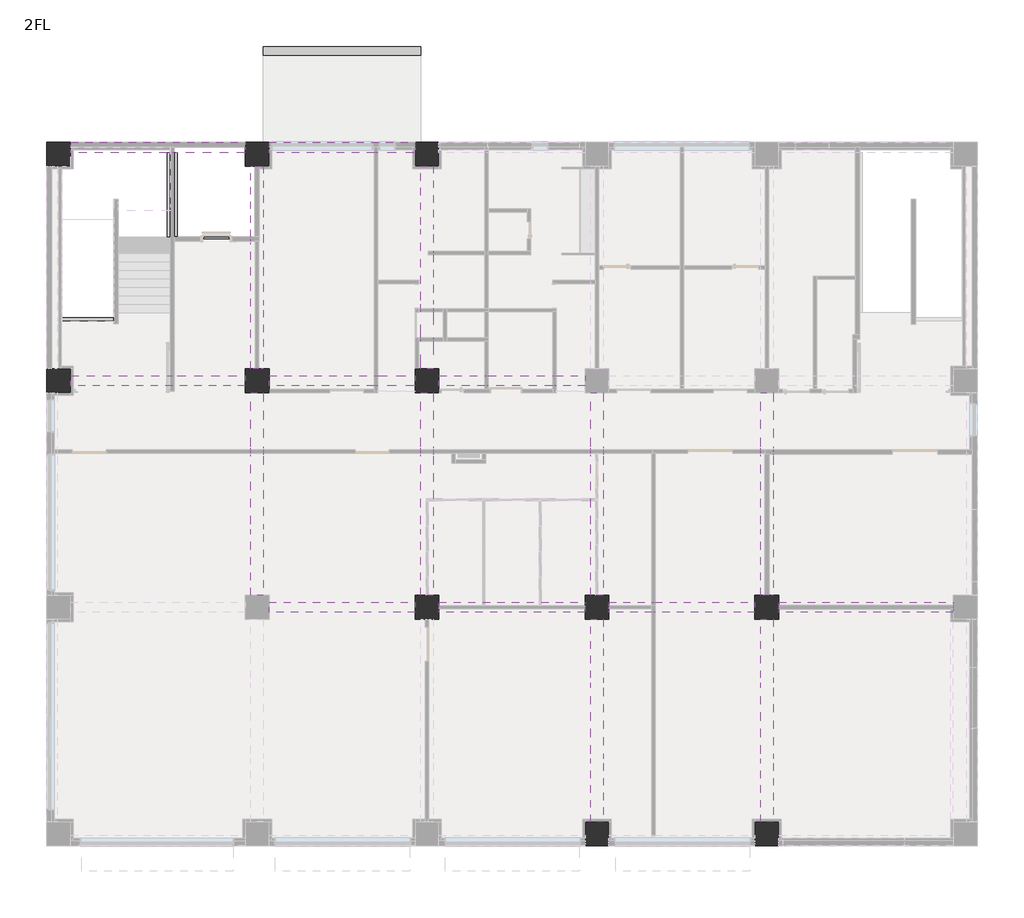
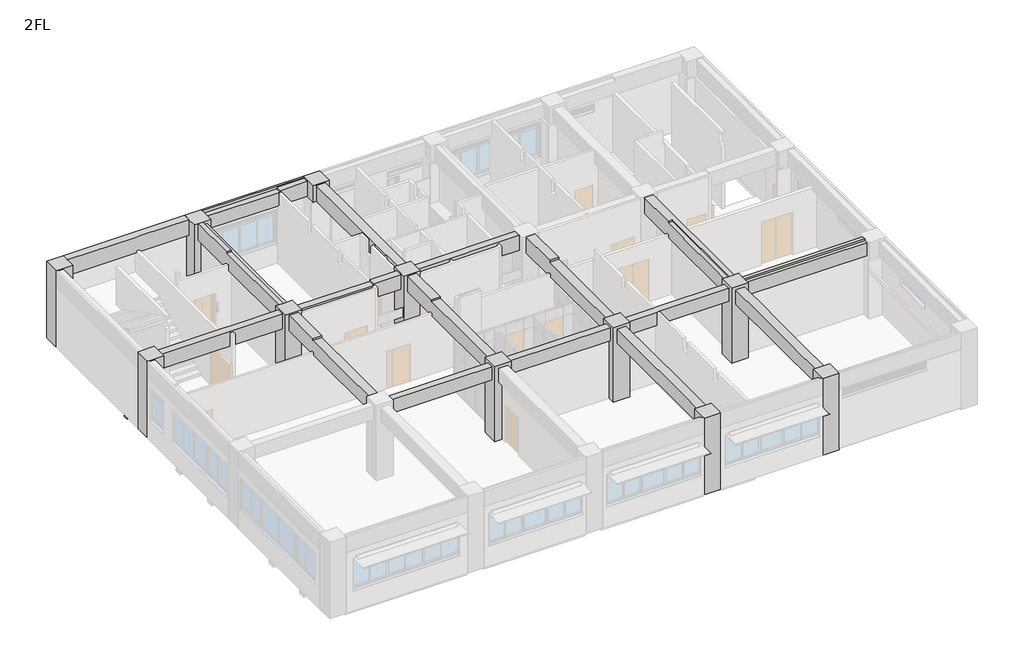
# One storey, part 6 of 7: 37 beams, 11 columns.
"""IFC4 building model written with IfcOpenShell, lengths in millimetres."""

import ifcopenshell
import ifcopenshell.guid

model = None  # the IFC model being written
_history = None  # IfcOwnerHistory: only IFC2X3 demands one
_inside = {}  # id of a spatial element -> (the spatial element, [elements in it])
_under = {}  # id of a project, library or spatial element -> (it, [spatial elements below it])
_declared = {}  # id of a project -> (the project, [libraries it declares])
_typed = {}  # id of a type object -> (the type object, [elements of that type])
_made_of = {}  # id of a material, layer set ... -> (it, [elements and type objects made of it])


def new_model(schema):
    """Start an empty IFC model of exactly this schema.

    Asked for "IFC4X3", IfcOpenShell would pick the latest addendum, in which some entities
    have other attributes; the version numbers below select the first issue.
    IFC2X3 requires an IfcOwnerHistory on every rooted entity: one is made here for all.
    """
    global model, _history
    if schema == "IFC4X3":
        model = ifcopenshell.file(schema_version=(4, 3, 0, 0))
    else:
        model = ifcopenshell.file(schema=schema)
    _inside.clear()
    _under.clear()
    _declared.clear()
    _typed.clear()
    _made_of.clear()
    _history = None
    if model.schema == "IFC2X3":
        org = make("IfcOrganization", Name="unknown")
        user = make(
            "IfcPersonAndOrganization",
            ThePerson=make("IfcPerson", FamilyName="unknown"),
            TheOrganization=org,
        )
        app = make(
            "IfcApplication",
            ApplicationDeveloper=org,
            Version="unknown",
            ApplicationFullName="unknown",
            ApplicationIdentifier="unknown",
        )
        _history = make(
            "IfcOwnerHistory",
            OwningUser=user,
            OwningApplication=app,
            ChangeAction="ADDED",
            CreationDate=0,
        )
    return model


def make(cls, **values):
    """One entity of the class cls with the attributes given. An attribute that is None is left unset."""
    return model.create_entity(
        cls, **{name: value for name, value in values.items() if value is not None}
    )


def rooted(cls, **values):
    """An entity with a GlobalId (a new one), such as an element, a storey or a relation."""
    return make(cls, GlobalId=ifcopenshell.guid.new(), OwnerHistory=_history, **values)


def si_unit(unit_type, name, prefix=None):
    """IfcSIUnit, for example si_unit("LENGTHUNIT", "METRE", prefix="MILLI")."""
    return make("IfcSIUnit", UnitType=unit_type, Prefix=prefix, Name=name)


def assignment(units):
    """IfcUnitAssignment: the units of a project."""
    return None if units is None else make("IfcUnitAssignment", Units=units)


def point(xyz):
    """IfcCartesianPoint."""
    return None if xyz is None else make("IfcCartesianPoint", Coordinates=xyz)


def direction(xyz):
    """IfcDirection."""
    return None if xyz is None else make("IfcDirection", DirectionRatios=xyz)


def frame(location, z_axis=None, x_axis=None):
    """IfcAxis2Placement3D, a coordinate frame: its origin and axes. An axis left out is left unset."""
    return make(
        "IfcAxis2Placement3D",
        Location=point(location),
        Axis=direction(z_axis),
        RefDirection=direction(x_axis),
    )


def origin():
    """The frame at (0, 0, 0) with its axes left unset."""
    return frame((0.0, 0.0, 0.0))


def place(relative_to, where):
    """IfcLocalPlacement: puts the frame where relative to a parent placement (None: the world)."""
    return make(
        "IfcLocalPlacement", PlacementRelTo=relative_to, RelativePlacement=where
    )


def context(
    kind, dimensions, precision=None, world=None, true_north=None, identifier=None
):
    """IfcGeometricRepresentationContext, for example the 3D "Model" context."""
    return make(
        "IfcGeometricRepresentationContext",
        ContextIdentifier=identifier,
        ContextType=kind,
        CoordinateSpaceDimension=dimensions,
        Precision=precision,
        WorldCoordinateSystem=world,
        TrueNorth=true_north,
    )


def project(units=None, contexts=None):
    """IfcProject with its units and contexts."""
    return rooted(
        "IfcProject",
        Name="project",
        RepresentationContexts=contexts,
        UnitsInContext=assignment(units),
    )


def spatial(cls, under=None, at=None, **own):
    """A site, building, storey or space (cls), placed at a placement, below another one or the project."""
    s = rooted(cls, ObjectPlacement=at, **own)
    if under is not None:
        _under.setdefault(under.id(), (under, []))[1].append(s)
    return s


def polyline(points):
    """IfcPolyline through the points."""
    return make("IfcPolyline", Points=[point(p) for p in points])


def outline(outer, holes=None, kind="AREA"):
    """IfcArbitraryClosedProfileDef: a profile drawn as a closed curve; with holes, ...WithVoids."""
    if holes is None:
        return make("IfcArbitraryClosedProfileDef", ProfileType=kind, OuterCurve=outer)
    return make(
        "IfcArbitraryProfileDefWithVoids",
        ProfileType=kind,
        OuterCurve=outer,
        InnerCurves=holes,
    )


def extrude(swept, where, along, depth):
    """IfcExtrudedAreaSolid: the profile swept, set in the frame where, extruded along a direction by depth."""
    return make(
        "IfcExtrudedAreaSolid",
        SweptArea=swept,
        Position=where,
        ExtrudedDirection=direction(along),
        Depth=depth,
    )


def faces_of(points, faces, orient=None, outer=None):
    """IfcFace entities. A face is a list of loops; a loop is a list of indices into points, from 0.

    orient and outer hold one flag for each loop. By default every Orientation is true, the
    first loop of a face is its IfcFaceOuterBound and the others are IfcFaceBound.
    """
    made = []
    for i, loops in enumerate(faces):
        bounds = []
        for j, loop in enumerate(loops):
            is_outer = j == 0 if outer is None else outer[i][j]
            bounds.append(
                make(
                    "IfcFaceOuterBound" if is_outer else "IfcFaceBound",
                    Bound=make("IfcPolyLoop", Polygon=[points[k] for k in loop]),
                    Orientation=True if orient is None else orient[i][j],
                )
            )
        made.append(make("IfcFace", Bounds=bounds))
    return made


def faceted_brep(points, faces, orient=None, outer=None, voids=None):
    """IfcFacetedBrep: a solid bounded by flat faces; with voids (closed shells), ...WithVoids."""
    shared = [point(p) for p in points]
    hull = make("IfcClosedShell", CfsFaces=faces_of(shared, faces, orient, outer))
    if voids is None:
        return make("IfcFacetedBrep", Outer=hull)
    return make(
        "IfcFacetedBrepWithVoids",
        Outer=hull,
        Voids=[
            make(cls, CfsFaces=faces_of(shared, fs, o, b)) for cls, fs, o, b in voids
        ],
    )


def shape(context_of_items, identifier, shape_type, items):
    """IfcShapeRepresentation: the items that make up one representation, for example the "Body"."""
    return make(
        "IfcShapeRepresentation",
        ContextOfItems=context_of_items,
        RepresentationIdentifier=identifier,
        RepresentationType=shape_type,
        Items=items,
    )


def made_of(thing, what):
    """Note that an element or type object is made of a material, layer set ...; save() writes the relation."""
    if what is not None:
        _made_of.setdefault(what.id(), (what, []))[1].append(thing)
    return thing


def element(
    cls,
    number,
    at=None,
    inside=None,
    cuts=None,
    type_object=None,
    material=None,
    context=None,
    identifier="Body",
    shape_type=None,
    held_by="IfcProductDefinitionShape",
    body=None,
    shapes=None,
    **own,
):
    """One element of the class cls, such as IfcWall. Its Tag is "e" and its number.

    at: its placement. inside: the storey or other place that contains it. cuts: it is an
    opening in that element (IfcRelVoidsElement). A single representation is given by context,
    identifier, shape_type and body (its items); several are given by shapes. held_by: the class
    of the entity that holds the representations. save() writes the other relations.
    """
    e = rooted(cls, Tag="e%d" % number, ObjectPlacement=at, **own)
    if body is not None:
        shapes = [shape(context, identifier, shape_type, body)]
    if shapes is not None:
        e.Representation = make(held_by, Representations=shapes)
    if inside is not None:
        _inside.setdefault(inside.id(), (inside, []))[1].append(e)
    if cuts is not None:
        rooted(
            "IfcRelVoidsElement", RelatingBuildingElement=cuts, RelatedOpeningElement=e
        )
    if type_object is not None:
        _typed.setdefault(type_object.id(), (type_object, []))[1].append(e)
    return made_of(e, material)


def aggregate(whole, parts):
    """IfcRelAggregates: a whole, such as a stair, and the parts it consists of."""
    return rooted("IfcRelAggregates", RelatingObject=whole, RelatedObjects=parts)


def save(model, path):
    """Write the relations noted so far, then the file.

    IfcRelAggregates (storeys below a building ...), IfcRelContainedInSpatialStructure (elements
    in a storey), IfcRelDefinesByType, IfcRelAssociatesMaterial and IfcRelDeclares: one each for
    every whole, place, type object, material and project.
    """
    for whole, parts in _under.values():
        aggregate(whole, parts)
    for where, things in _inside.values():
        rooted(
            "IfcRelContainedInSpatialStructure",
            RelatedElements=things,
            RelatingStructure=where,
        )
    for kind, things in _typed.values():
        rooted("IfcRelDefinesByType", RelatedObjects=things, RelatingType=kind)
    for what, things in _made_of.values():
        rooted("IfcRelAssociatesMaterial", RelatedObjects=things, RelatingMaterial=what)
    for by, libraries in _declared.values():
        rooted("IfcRelDeclares", RelatingContext=by, RelatedDefinitions=libraries)
    model.write(path)


model = new_model("IFC4")

# Units and contexts
model_context = context("Model", 3, world=origin())
ifc_project = project(units=[si_unit("LENGTHUNIT", "METRE", prefix="MILLI")], contexts=[model_context])

# Site, building, storey
site = spatial("IfcSite", under=ifc_project)
building = spatial("IfcBuilding", under=site)
storey = spatial("IfcBuildingStorey", under=building, Name="2FL", Elevation=4100.0)

# Beams
placement = place(None, origin())
element("IfcBeam", 1, ObjectType="営_RC梁 : 2-RG2 350*850", at=placement, inside=storey, context=model_context, shape_type="SweptSolid", body=[
    extrude(outline(polyline([(7420.0, 7825.0), (7420.0, 8175.0), (12580.0, 8175.0), (12580.0, 7825.0), (7420.0, 7825.0)])), frame((0.0, 0.0, 7250.0), z_axis=(0.0, 0.0, 1.0), x_axis=(1.0, 0.0, 0.0)), (0.0, 0.0, 1.0), 700.0),
])
element("IfcBeam", 2, ObjectType="営_RC梁 : 2-RG2 350*850", at=placement, inside=storey, context=model_context, shape_type="Brep", body=[
    faceted_brep([(13420.0, 7825.0, 7250.0), (18580.0, 7825.0, 7250.0), (18580.0, 7825.0, 7950.0), (13420.0, 7825.0, 7950.0), (13420.0, 7940.0, 7250.0), (13420.0, 8060.0, 7250.0), (13420.0, 8175.0, 7250.0), (18580.0, 8175.0, 7250.0), (18580.0, 8060.0, 7250.0), (18580.0, 7940.0, 7250.0), (13420.0, 8175.0, 7950.0), (18580.0, 8175.0, 7950.0)], [[[0, 1, 2, 3]], [[0, 4, 5, 6, 7, 8, 9, 1]], [[7, 6, 10, 11]], [[6, 5, 4, 0, 3, 10]], [[1, 9, 8, 7, 11, 2]], [[3, 2, 11, 10]]]),
])
element("IfcBeam", 3, ObjectType="営_RC梁 : 2-RG2 350*850", at=placement, inside=storey, context=model_context, shape_type="Brep", body=[
    faceted_brep([(19420.0, 7825.0, 7250.0), (20940.0, 7825.0, 7250.0), (21060.0, 7825.0, 7250.0), (24580.0, 7825.0, 7250.0), (24580.0, 7825.0, 7950.0), (21060.0, 7825.0, 7950.0), (20940.0, 7825.0, 7950.0), (19420.0, 7825.0, 7950.0), (19420.0, 7940.0, 7250.0), (19420.0, 8060.0, 7250.0), (19420.0, 8175.0, 7250.0), (20940.0, 8175.0, 7250.0), (21060.0, 8175.0, 7250.0), (24580.0, 8175.0, 7250.0), (19420.0, 8175.0, 7950.0), (20940.0, 8175.0, 7950.0), (21060.0, 8175.0, 7950.0), (24580.0, 8175.0, 7950.0)], [[[0, 1, 2, 3, 4, 5, 6, 7]], [[0, 8, 9, 10, 11, 12, 13, 3, 2, 1]], [[13, 12, 11, 10, 14, 15, 16, 17]], [[10, 9, 8, 0, 7, 14]], [[3, 13, 17, 4]], [[7, 6, 5, 4, 17, 16, 15, 14]]]),
])
element("IfcBeam", 4, ObjectType="営_RC梁 : 2-RG2 350*850", at=placement, inside=storey, context=model_context, shape_type="Brep", body=[
    faceted_brep([(25420.0, 7825.0, 7250.0), (31580.0, 7825.0, 7250.0), (31580.0, 7825.0, 7950.0), (25420.0, 7825.0, 7950.0), (25420.0, 7925.0, 7250.0), (25420.0, 8075.0, 7250.0), (25420.0, 8175.0, 7250.0), (31580.0, 8175.0, 7250.0), (31580.0, 8075.0, 7250.0), (31580.0, 7925.0, 7250.0), (25420.0, 8175.0, 8040.0), (31580.0, 8175.0, 8040.0), (25420.0, 8000.0, 7950.0), (25420.0, 8000.0, 8040.0), (31580.0, 8000.0, 8040.0), (31580.0, 8000.0, 7950.0)], [[[0, 1, 2, 3]], [[0, 4, 5, 6, 7, 8, 9, 1]], [[7, 6, 10, 11]], [[6, 5, 4, 0, 3, 12, 13, 10]], [[1, 9, 8, 7, 11, 14, 15, 2]], [[15, 12, 3, 2]], [[12, 15, 14, 13]], [[11, 10, 13, 14]]]),
])
element("IfcBeam", 5, ObjectType="営_RC梁 : 2-RG2 350*850", at=placement, inside=storey, context=model_context, shape_type="Brep", body=[
    faceted_brep([(420.0, 15825.0, 7250.0), (6580.0, 15825.0, 7250.0), (6580.0, 15825.0, 8040.0), (420.0, 15825.0, 8040.0), (6580.0, 16175.0, 7250.0), (420.0, 16175.0, 7250.0), (420.0, 16175.0, 8040.0), (3825.0, 16175.0, 8040.0), (4175.0, 16175.0, 8040.0), (6580.0, 16175.0, 8040.0)], [[[0, 1, 2, 3]], [[4, 1, 0, 5]], [[4, 5, 6, 7, 8, 9]], [[1, 4, 9, 2]], [[5, 0, 3, 6]], [[3, 2, 9, 8, 7, 6]]]),
])
element("IfcBeam", 6, ObjectType="営_RC梁 : 2-RG2 350*850", at=placement, inside=storey, context=model_context, shape_type="Brep", body=[
    faceted_brep([(7420.0, 15825.0, 7250.0), (11140.0, 15825.0, 7250.0), (11260.0, 15825.0, 7250.0), (12580.0, 15825.0, 7250.0), (12580.0, 15825.0, 8040.0), (11200.0, 15825.0, 8040.0), (11200.0, 15825.0, 7950.0), (11140.0, 15825.0, 7950.0), (7420.0, 15825.0, 7950.0), (7420.0, 16175.0, 7250.0), (11140.0, 16175.0, 7250.0), (11260.0, 16175.0, 7250.0), (12580.0, 16175.0, 7250.0), (7420.0, 16175.0, 7950.0), (11140.0, 16175.0, 7950.0), (11200.0, 16175.0, 7950.0), (11200.0, 16175.0, 8040.0), (12580.0, 16175.0, 8040.0)], [[[0, 1, 2, 3, 4, 5, 6, 7, 8]], [[0, 9, 10, 11, 12, 3, 2, 1]], [[12, 11, 10, 9, 13, 14, 15, 16, 17]], [[9, 0, 8, 13]], [[3, 12, 17, 4]], [[5, 4, 17, 16]], [[6, 15, 14, 13, 8, 7]], [[15, 6, 5, 16]]]),
])
element("IfcBeam", 7, ObjectType="営_RC梁 : 2-RG2 350*850", at=placement, inside=storey, context=model_context, shape_type="Brep", body=[
    faceted_brep([(13420.0, 15825.0, 7250.0), (15040.0, 15825.0, 7250.0), (15160.0, 15825.0, 7250.0), (17440.0, 15825.0, 7250.0), (17560.0, 15825.0, 7250.0), (18580.0, 15825.0, 7250.0), (18580.0, 15825.0, 8040.0), (13420.0, 15825.0, 8040.0), (13420.0, 16175.0, 7250.0), (15040.0, 16175.0, 7250.0), (15160.0, 16175.0, 7250.0), (17440.0, 16175.0, 7250.0), (17560.0, 16175.0, 7250.0), (18580.0, 16175.0, 7250.0), (13420.0, 16175.0, 8040.0), (18580.0, 16175.0, 8040.0)], [[[0, 1, 2, 3, 4, 5, 6, 7]], [[0, 8, 9, 10, 11, 12, 13, 5, 4, 3, 2, 1]], [[13, 12, 11, 10, 9, 8, 14, 15]], [[8, 0, 7, 14]], [[5, 13, 15, 6]], [[7, 6, 15, 14]]]),
])
element("IfcBeam", 8, ObjectType="営_RC梁 : 2-RG1 350*850", at=placement, inside=storey, context=model_context, shape_type="Brep", body=[
    faceted_brep([(6580.0, 24050.0, 8100.0), (6580.0, 24050.0, 7250.0), (6580.0, 24250.0, 7250.0), (6580.0, 24420.0, 7250.0), (6580.0, 24420.0, 8100.0), (420.0, 24050.0, 8100.0), (420.0, 24420.0, 8100.0), (420.0, 24420.0, 7250.0), (420.0, 24250.0, 7250.0), (420.0, 24050.0, 7250.0), (4175.0, 24050.0, 8100.0), (3825.0, 24050.0, 8100.0), (3925.0, 24050.0, 7250.0), (4075.0, 24050.0, 7250.0)], [[[0, 1, 2, 3, 4]], [[5, 6, 7, 8, 9]], [[1, 0, 10, 11, 5, 9, 12, 13]], [[3, 2, 1, 13, 12, 9, 8, 7]], [[4, 3, 7, 6]], [[0, 4, 6, 5, 11, 10]]]),
])
element("IfcBeam", 9, ObjectType="営_RC梁 : 2-RG1 350*850", at=placement, inside=storey, context=model_context, shape_type="Brep", body=[
    faceted_brep([(12580.0, 24050.0, 7250.0), (12580.0, 24250.0, 7250.0), (12580.0, 24420.0, 7250.0), (12580.0, 24420.0, 8100.0), (12580.0, 24335.0, 8100.0), (12580.0, 24335.0, 8040.0), (12580.0, 24050.0, 8040.0), (7420.0, 24420.0, 8100.0), (7420.0, 24420.0, 7250.0), (7420.0, 24250.0, 7250.0), (7420.0, 24050.0, 7250.0), (7420.0, 24050.0, 7950.0), (7420.0, 24335.0, 7950.0), (7420.0, 24335.0, 8100.0), (11140.0, 24050.0, 7250.0), (11260.0, 24050.0, 7250.0), (11200.0, 24050.0, 8040.0), (11200.0, 24050.0, 7950.0), (11140.0, 24050.0, 7950.0), (11200.0, 24335.0, 8100.0), (11200.0, 24335.0, 8040.0), (11200.0, 24335.0, 7950.0)], [[[0, 1, 2, 3, 4, 5, 6]], [[7, 8, 9, 10, 11, 12, 13]], [[10, 14, 15, 0, 6, 16, 17, 18, 11]], [[2, 1, 0, 15, 14, 10, 9, 8]], [[3, 2, 8, 7]], [[3, 7, 13, 19, 4]], [[5, 20, 16, 6]], [[20, 5, 4, 19, 13, 12, 21]], [[17, 21, 12, 11, 18]], [[20, 21, 17, 16]]]),
])
element("IfcBeam", 10, ObjectType="営_RC梁 : 2-4G12 450*900", at=placement, inside=storey, context=model_context, shape_type="Brep", body=[
    faceted_brep([(7225.0, 8420.0, 7200.0), (7225.0, 13440.0, 7200.0), (7225.0, 13560.0, 7200.0), (7225.0, 15580.0, 7200.0), (7225.0, 15580.0, 8040.0), (7225.0, 13675.0, 8040.0), (7225.0, 13500.0, 8040.0), (7225.0, 13500.0, 7950.0), (7225.0, 13325.0, 7950.0), (7225.0, 10925.0, 7950.0), (7225.0, 10575.0, 7950.0), (7225.0, 8420.0, 7950.0), (6775.0, 8420.0, 7200.0), (6775.0, 13440.0, 7200.0), (6775.0, 13560.0, 7200.0), (6775.0, 15580.0, 7200.0), (6775.0, 8420.0, 7950.0), (6775.0, 10575.0, 7950.0), (6775.0, 10925.0, 7950.0), (6775.0, 13325.0, 7950.0), (6775.0, 13500.0, 7950.0), (6775.0, 13500.0, 8040.0), (6775.0, 13675.0, 8040.0), (6775.0, 15580.0, 8040.0)], [[[0, 1, 2, 3, 4, 5, 6, 7, 8, 9, 10, 11]], [[0, 12, 13, 14, 15, 3, 2, 1]], [[15, 14, 13, 12, 16, 17, 18, 19, 20, 21, 22, 23]], [[12, 0, 11, 16]], [[3, 15, 23, 4]], [[7, 20, 19, 18, 17, 16, 11, 10, 9, 8]], [[20, 7, 6, 21]], [[6, 5, 4, 23, 22, 21]]]),
])
element("IfcBeam", 11, ObjectType="営_RC梁 : 2-4G12 450*900", at=placement, inside=storey, context=model_context, shape_type="Brep", body=[
    faceted_brep([(7225.0, 16420.0, 7200.0), (7225.0, 23580.0, 7200.0), (7225.0, 23580.0, 7950.0), (7225.0, 21515.0, 7950.0), (7225.0, 21165.0, 7950.0), (7225.0, 18845.0, 7950.0), (7225.0, 18495.0, 7950.0), (7225.0, 16420.0, 7950.0), (7060.0, 16420.0, 7200.0), (6940.0, 16420.0, 7200.0), (6775.0, 16420.0, 7200.0), (6775.0, 20925.0, 7200.0), (6775.0, 21075.0, 7200.0), (6775.0, 23580.0, 7200.0), (6925.0, 23580.0, 7200.0), (7075.0, 23580.0, 7200.0), (6775.0, 23580.0, 8100.0), (6775.0, 16420.0, 8040.0), (6775.0, 20825.0, 8040.0), (6775.0, 21075.0, 8040.0), (6775.0, 21075.0, 8100.0), (7000.0, 21075.0, 8100.0), (7000.0, 23580.0, 8100.0), (7000.0, 16420.0, 7950.0), (7000.0, 16420.0, 8040.0), (7000.0, 23580.0, 7950.0), (7000.0, 21075.0, 8040.0)], [[[0, 1, 2, 3, 4, 5, 6, 7]], [[0, 8, 9, 10, 11, 12, 13, 14, 15, 1]], [[16, 13, 12, 11, 10, 17, 18, 19, 20]], [[16, 20, 21, 22]], [[10, 9, 8, 0, 7, 23, 24, 17]], [[1, 15, 14, 13, 16, 22, 25, 2]], [[26, 19, 18, 17, 24]], [[19, 26, 21, 20]], [[25, 23, 7, 6, 5, 4, 3, 2]], [[23, 25, 22, 21, 26, 24]]]),
])
element("IfcBeam", 12, ObjectType="営_RC梁 : 2-4G12 450*900", at=placement, inside=storey, context=model_context, shape_type="Brep", body=[
    faceted_brep([(13225.0, 8420.0, 7200.0), (13225.0, 13440.0, 7200.0), (13225.0, 13560.0, 7200.0), (13225.0, 15580.0, 7200.0), (13225.0, 15580.0, 8040.0), (13225.0, 13675.0, 8040.0), (13225.0, 13500.0, 8040.0), (13225.0, 13500.0, 7950.0), (13225.0, 13325.0, 7950.0), (13225.0, 10925.0, 7950.0), (13225.0, 10575.0, 7950.0), (13225.0, 8420.0, 7950.0), (12775.0, 8420.0, 7200.0), (12775.0, 13440.0, 7200.0), (12775.0, 13560.0, 7200.0), (12775.0, 15580.0, 7200.0), (12775.0, 8420.0, 7950.0), (12775.0, 10575.0, 7950.0), (12775.0, 10925.0, 7950.0), (12775.0, 13325.0, 7950.0), (12775.0, 13500.0, 7950.0), (12775.0, 13500.0, 8040.0), (12775.0, 13675.0, 8040.0), (12775.0, 15580.0, 8040.0)], [[[0, 1, 2, 3, 4, 5, 6, 7, 8, 9, 10, 11]], [[0, 12, 13, 14, 15, 3, 2, 1]], [[15, 14, 13, 12, 16, 17, 18, 19, 20, 21, 22, 23]], [[12, 0, 11, 16]], [[3, 15, 23, 4]], [[7, 20, 19, 18, 17, 16, 11, 10, 9, 8]], [[20, 7, 6, 21]], [[6, 5, 4, 23, 22, 21]]]),
])
element("IfcBeam", 13, ObjectType="営_RC梁 : 2-4G12 450*900", at=placement, inside=storey, context=model_context, shape_type="Brep", body=[
    faceted_brep([(13225.0, 16420.0, 7200.0), (13225.0, 17400.0, 7200.0), (13225.0, 17520.0, 7200.0), (13225.0, 18430.0, 7200.0), (13225.0, 18550.0, 7200.0), (13225.0, 20450.0, 7200.0), (13225.0, 20570.0, 7200.0), (13225.0, 23580.0, 7200.0), (13225.0, 23580.0, 8040.0), (13225.0, 21515.0, 8040.0), (13225.0, 21165.0, 8040.0), (13225.0, 18845.0, 8040.0), (13225.0, 18495.0, 8040.0), (13225.0, 16420.0, 8040.0), (12775.0, 16420.0, 7200.0), (12775.0, 17400.0, 7200.0), (12775.0, 17520.0, 7200.0), (12775.0, 18430.0, 7200.0), (12775.0, 18550.0, 7200.0), (12775.0, 23580.0, 7200.0), (12775.0, 16420.0, 8040.0), (12775.0, 18495.0, 8040.0), (12775.0, 18845.0, 8040.0), (12775.0, 21165.0, 8040.0), (12775.0, 21515.0, 8040.0), (12775.0, 23580.0, 8040.0)], [[[0, 1, 2, 3, 4, 5, 6, 7, 8, 9, 10, 11, 12, 13]], [[0, 14, 15, 16, 17, 18, 19, 7, 6, 5, 4, 3, 2, 1]], [[19, 18, 17, 16, 15, 14, 20, 21, 22, 23, 24, 25]], [[14, 0, 13, 20]], [[7, 19, 25, 8]], [[13, 12, 11, 10, 9, 8, 25, 24, 23, 22, 21, 20]]]),
])
element("IfcBeam", 14, ObjectType="営_RC梁 : 2-4G12 450*900", at=placement, inside=storey, context=model_context, shape_type="Brep", body=[
    faceted_brep([(19225.0, 420.0, 7200.0), (19225.0, 7580.0, 7200.0), (19225.0, 7580.0, 7950.0), (19225.0, 5505.0, 7950.0), (19225.0, 5155.0, 7950.0), (19225.0, 2835.0, 7950.0), (19225.0, 2485.0, 7950.0), (19225.0, 420.0, 7950.0), (18775.0, 420.0, 7200.0), (18775.0, 7580.0, 7200.0), (18775.0, 420.0, 7950.0), (18775.0, 2485.0, 7950.0), (18775.0, 2835.0, 7950.0), (18775.0, 5155.0, 7950.0), (18775.0, 5505.0, 7950.0), (18775.0, 7580.0, 7950.0)], [[[0, 1, 2, 3, 4, 5, 6, 7]], [[0, 8, 9, 1]], [[9, 8, 10, 11, 12, 13, 14, 15]], [[8, 0, 7, 10]], [[1, 9, 15, 2]], [[7, 6, 5, 4, 3, 2, 15, 14, 13, 12, 11, 10]]]),
])
element("IfcBeam", 15, ObjectType="営_RC梁 : 2-4G12 450*900", at=placement, inside=storey, context=model_context, shape_type="Brep", body=[
    faceted_brep([(19225.0, 8420.0, 7200.0), (19225.0, 13440.0, 7200.0), (19225.0, 13560.0, 7200.0), (19225.0, 15580.0, 7200.0), (19225.0, 15580.0, 8040.0), (19225.0, 13675.0, 8040.0), (19225.0, 13500.0, 8040.0), (19225.0, 13500.0, 7950.0), (19225.0, 13325.0, 7950.0), (19225.0, 10925.0, 7950.0), (19225.0, 10575.0, 7950.0), (19225.0, 8420.0, 7950.0), (18775.0, 8420.0, 7200.0), (18775.0, 13440.0, 7200.0), (18775.0, 13560.0, 7200.0), (18775.0, 15580.0, 7200.0), (18775.0, 8420.0, 7950.0), (18775.0, 10575.0, 7950.0), (18775.0, 10925.0, 7950.0), (18775.0, 13325.0, 7950.0), (18775.0, 13500.0, 7950.0), (18775.0, 13500.0, 8040.0), (18775.0, 13675.0, 8040.0), (18775.0, 15580.0, 8040.0)], [[[0, 1, 2, 3, 4, 5, 6, 7, 8, 9, 10, 11]], [[0, 12, 13, 14, 15, 3, 2, 1]], [[15, 14, 13, 12, 16, 17, 18, 19, 20, 21, 22, 23]], [[12, 0, 11, 16]], [[3, 15, 23, 4]], [[7, 20, 19, 18, 17, 16, 11, 10, 9, 8]], [[20, 7, 6, 21]], [[6, 5, 4, 23, 22, 21]]]),
])
element("IfcBeam", 16, ObjectType="営_RC梁 : 2-4G12 450*900", at=placement, inside=storey, context=model_context, shape_type="Brep", body=[
    faceted_brep([(25225.0, 420.0, 7200.0), (25225.0, 7580.0, 7200.0), (25225.0, 7580.0, 7950.0), (25225.0, 5505.0, 7950.0), (25225.0, 5155.0, 7950.0), (25225.0, 2835.0, 7950.0), (25225.0, 2485.0, 7950.0), (25225.0, 420.0, 7950.0), (24775.0, 420.0, 7200.0), (24775.0, 7580.0, 7200.0), (24775.0, 420.0, 7950.0), (24775.0, 2485.0, 7950.0), (24775.0, 2835.0, 7950.0), (24775.0, 5155.0, 7950.0), (24775.0, 5505.0, 7950.0), (24775.0, 7580.0, 7950.0)], [[[0, 1, 2, 3, 4, 5, 6, 7]], [[0, 8, 9, 1]], [[9, 8, 10, 11, 12, 13, 14, 15]], [[8, 0, 7, 10]], [[1, 9, 15, 2]], [[7, 6, 5, 4, 3, 2, 15, 14, 13, 12, 11, 10]]]),
])
element("IfcBeam", 17, ObjectType="営_RC梁 : 2-4G12 450*900", at=placement, inside=storey, context=model_context, shape_type="Brep", body=[
    faceted_brep([(25225.0, 8420.0, 7200.0), (25225.0, 13410.0, 7200.0), (25225.0, 13560.0, 7200.0), (25225.0, 15580.0, 7200.0), (25225.0, 15580.0, 8040.0), (25225.0, 13675.0, 8040.0), (25225.0, 13325.0, 8040.0), (25225.0, 10925.0, 8040.0), (25225.0, 10575.0, 8040.0), (25225.0, 8420.0, 8040.0), (25075.0, 8420.0, 7200.0), (24925.0, 8420.0, 7200.0), (24775.0, 8420.0, 7200.0), (24775.0, 13440.0, 7200.0), (24775.0, 13560.0, 7200.0), (24775.0, 15580.0, 7200.0), (24775.0, 8420.0, 7950.0), (24775.0, 10575.0, 7950.0), (24775.0, 10925.0, 7950.0), (24775.0, 13325.0, 7950.0), (24775.0, 13500.0, 7950.0), (24775.0, 13500.0, 8040.0), (24775.0, 13675.0, 8040.0), (24775.0, 15580.0, 8040.0), (25000.0, 8420.0, 8040.0), (25000.0, 8420.0, 7950.0), (25000.0, 13500.0, 7950.0), (25000.0, 13500.0, 8040.0)], [[[0, 1, 2, 3, 4, 5, 6, 7, 8, 9]], [[0, 10, 11, 12, 13, 14, 15, 3, 2, 1]], [[15, 14, 13, 12, 16, 17, 18, 19, 20, 21, 22, 23]], [[12, 11, 10, 0, 9, 24, 25, 16]], [[3, 15, 23, 4]], [[25, 26, 20, 19, 18, 17, 16]], [[20, 26, 27, 21]], [[26, 25, 24, 27]], [[9, 8, 7, 6, 5, 4, 23, 22, 21, 27, 24]]]),
])
element("IfcBeam", 18, ObjectType="営_RC梁 : B5 300*700", at=placement, inside=storey, context=model_context, shape_type="SweptSolid", body=[
    extrude(outline(polyline([(27800.0, 3100.0), (27500.0, 3100.0), (27500.0, 3287.5262849), (27700.0, 3299.7214068), (27700.0, 3450.0), (27500.0, 3437.804878), (27500.0, 3800.0), (27800.0, 3800.0), (27800.0, 3100.0)])), frame((7225.0, 0.0, 0.0), z_axis=(1.0, 0.0, 0.0), x_axis=(0.0, 1.0, 0.0)), (0.0, 0.0, 1.0), 5550.0),
])
element("IfcBeam", 19, ObjectType="営_RC梁 : B2 350*750", at=placement, inside=storey, context=model_context, shape_type="SweptSolid", body=[
    extrude(outline(polyline([(25225.0, 2489.0), (25225.0, 2839.0), (32050.0, 2839.0), (32050.0, 2489.0), (25225.0, 2489.0)])), frame((0.0, 0.0, 3250.0), z_axis=(0.0, 0.0, 1.0), x_axis=(1.0, 0.0, 0.0)), (0.0, 0.0, 1.0), 690.0),
])
element("IfcBeam", 20, ObjectType="営_RC梁 : B2 350*750", at=placement, inside=storey, context=model_context, shape_type="SweptSolid", body=[
    extrude(outline(polyline([(25225.0, 5155.0), (25225.0, 5505.0), (32050.0, 5505.0), (32050.0, 5155.0), (25225.0, 5155.0)])), frame((0.0, 0.0, 3250.0), z_axis=(0.0, 0.0, 1.0), x_axis=(1.0, 0.0, 0.0)), (0.0, 0.0, 1.0), 690.0),
])
element("IfcBeam", 21, ObjectType="営_RC梁 : B2 350*750", at=placement, inside=storey, context=model_context, shape_type="SweptSolid", body=[
    extrude(outline(polyline([(25225.0, 10575.0), (25225.0, 10925.0), (32050.0, 10925.0), (32050.0, 10575.0), (25225.0, 10575.0)])), frame((0.0, 0.0, 3250.0), z_axis=(0.0, 0.0, 1.0), x_axis=(1.0, 0.0, 0.0)), (0.0, 0.0, 1.0), 690.0),
])
element("IfcBeam", 22, ObjectType="営_RC梁 : B2 350*750", at=placement, inside=storey, context=model_context, shape_type="Brep", body=[
    faceted_brep([(25225.0, 13325.0, 3250.0), (32050.0, 13325.0, 3250.0), (32050.0, 13325.0, 3940.0), (25225.0, 13325.0, 3940.0), (25225.0, 13405.0, 3250.0), (25225.0, 13555.0, 3250.0), (25225.0, 13675.0, 3250.0), (32050.0, 13675.0, 3250.0), (32050.0, 13555.0, 3250.0), (32050.0, 13405.0, 3250.0), (25225.0, 13675.0, 3940.0), (32050.0, 13675.0, 3940.0)], [[[0, 1, 2, 3]], [[0, 4, 5, 6, 7, 8, 9, 1]], [[7, 6, 10, 11]], [[6, 5, 4, 0, 3, 10]], [[1, 9, 8, 7, 11, 2]], [[3, 2, 11, 10]]]),
])
element("IfcBeam", 23, ObjectType="営_RC梁 : B2 350*750", at=placement, inside=storey, context=model_context, shape_type="Brep", body=[
    faceted_brep([(19225.0, 2485.0, 3250.0), (21925.0, 2485.0, 3250.0), (22075.0, 2485.0, 3250.0), (24775.0, 2485.0, 3250.0), (24775.0, 2485.0, 3940.0), (22075.0, 2485.0, 3940.0), (21925.0, 2485.0, 3940.0), (21200.0, 2485.0, 3940.0), (21200.0, 2485.0, 3850.0), (19225.0, 2485.0, 3850.0), (19225.0, 2835.0, 3250.0), (21925.0, 2835.0, 3250.0), (22075.0, 2835.0, 3250.0), (24775.0, 2835.0, 3250.0), (24775.0, 2718.3416571, 3250.0), (19225.0, 2835.0, 3850.0), (21200.0, 2835.0, 3850.0), (21200.0, 2835.0, 3940.0), (21925.0, 2835.0, 3940.0), (22075.0, 2835.0, 3940.0), (24775.0, 2835.0, 3940.0)], [[[0, 1, 2, 3, 4, 5, 6, 7, 8, 9]], [[0, 10, 11, 12, 13, 14, 3, 2, 1]], [[13, 12, 11, 10, 15, 16, 17, 18, 19, 20]], [[3, 14, 13, 20, 4]], [[10, 0, 9, 15]], [[8, 16, 15, 9]], [[16, 8, 7, 17]], [[7, 6, 5, 4, 20, 19, 18, 17]]]),
])
element("IfcBeam", 24, ObjectType="営_RC梁 : B2 350*750", at=placement, inside=storey, context=model_context, shape_type="Brep", body=[
    faceted_brep([(19225.0, 5155.0, 3250.0), (21925.0, 5155.0, 3250.0), (22075.0, 5155.0, 3250.0), (24775.0, 5155.0, 3250.0), (24775.0, 5155.0, 3940.0), (22075.0, 5155.0, 3940.0), (21925.0, 5155.0, 3940.0), (21200.0, 5155.0, 3940.0), (21200.0, 5155.0, 3850.0), (19225.0, 5155.0, 3850.0), (19225.0, 5505.0, 3250.0), (21925.0, 5505.0, 3250.0), (22075.0, 5505.0, 3250.0), (24775.0, 5505.0, 3250.0), (19225.0, 5505.0, 3850.0), (21200.0, 5505.0, 3850.0), (21200.0, 5505.0, 3940.0), (21925.0, 5505.0, 3940.0), (22075.0, 5505.0, 3940.0), (24775.0, 5505.0, 3940.0)], [[[0, 1, 2, 3, 4, 5, 6, 7, 8, 9]], [[0, 10, 11, 12, 13, 3, 2, 1]], [[13, 12, 11, 10, 14, 15, 16, 17, 18, 19]], [[10, 0, 9, 14]], [[3, 13, 19, 4]], [[8, 15, 14, 9]], [[15, 8, 7, 16]], [[7, 6, 5, 4, 19, 18, 17, 16]]]),
])
element("IfcBeam", 25, ObjectType="営_RC梁 : B2 350*750", at=placement, inside=storey, context=model_context, shape_type="Brep", body=[
    faceted_brep([(19225.0, 10575.0, 3250.0), (21920.0, 10575.0, 3250.0), (22040.0, 10575.0, 3250.0), (24775.0, 10575.0, 3250.0), (24775.0, 10575.0, 3940.0), (21200.0, 10575.0, 3940.0), (21200.0, 10575.0, 3850.0), (19225.0, 10575.0, 3850.0), (19225.0, 10925.0, 3250.0), (21920.0, 10925.0, 3250.0), (22040.0, 10925.0, 3250.0), (24775.0, 10925.0, 3250.0), (19225.0, 10925.0, 3850.0), (21200.0, 10925.0, 3850.0), (21200.0, 10925.0, 3940.0), (24775.0, 10925.0, 3940.0)], [[[0, 1, 2, 3, 4, 5, 6, 7]], [[0, 8, 9, 10, 11, 3, 2, 1]], [[11, 10, 9, 8, 12, 13, 14, 15]], [[8, 0, 7, 12]], [[3, 11, 15, 4]], [[6, 13, 12, 7]], [[13, 6, 5, 14]], [[5, 4, 15, 14]]]),
])
element("IfcBeam", 26, ObjectType="営_RC梁 : B2 350*750", at=placement, inside=storey, context=model_context, shape_type="Brep", body=[
    faceted_brep([(19225.0, 13325.0, 3250.0), (21920.0, 13325.0, 3250.0), (22040.0, 13325.0, 3250.0), (24775.0, 13325.0, 3250.0), (24775.0, 13325.0, 3940.0), (21200.0, 13325.0, 3940.0), (21200.0, 13325.0, 3850.0), (19225.0, 13325.0, 3850.0), (19225.0, 13675.0, 3250.0), (24775.0, 13675.0, 3250.0), (19225.0, 13675.0, 3940.0), (24775.0, 13675.0, 3940.0), (19225.0, 13500.0, 3850.0), (19225.0, 13500.0, 3940.0), (21200.0, 13500.0, 3850.0), (21200.0, 13500.0, 3940.0), (20950.0, 13500.0, 3940.0)], [[[0, 1, 2, 3, 4, 5, 6, 7]], [[0, 8, 9, 3, 2, 1]], [[9, 8, 10, 11]], [[8, 0, 7, 12, 13, 10]], [[3, 9, 11, 4]], [[6, 14, 12, 7]], [[12, 14, 15, 16, 13]], [[14, 6, 5, 15]], [[5, 4, 11, 10, 13, 16, 15]]]),
])
element("IfcBeam", 27, ObjectType="営_RC梁 : B1 350*750", at=placement, inside=storey, context=model_context, shape_type="SweptSolid", body=[
    extrude(outline(polyline([(13225.0, 5155.0), (13225.0, 5505.0), (18775.0, 5505.0), (18775.0, 5155.0), (13225.0, 5155.0)])), frame((0.0, 0.0, 3250.0), z_axis=(0.0, 0.0, 1.0), x_axis=(1.0, 0.0, 0.0)), (0.0, 0.0, 1.0), 600.0),
])
element("IfcBeam", 28, ObjectType="営_RC梁 : B1 350*750", at=placement, inside=storey, context=model_context, shape_type="SweptSolid", body=[
    extrude(outline(polyline([(13225.0, 2485.0), (13225.0, 2835.0), (18775.0, 2835.0), (18775.0, 2485.0), (13225.0, 2485.0)])), frame((0.0, 0.0, 3250.0), z_axis=(0.0, 0.0, 1.0), x_axis=(1.0, 0.0, 0.0)), (0.0, 0.0, 1.0), 600.0),
])
element("IfcBeam", 29, ObjectType="営_RC梁 : B1 350*750", at=placement, inside=storey, context=model_context, shape_type="SweptSolid", body=[
    extrude(outline(polyline([(7225.0, 10575.0), (7225.0, 10925.0), (12775.0, 10925.0), (12775.0, 10575.0), (7225.0, 10575.0)])), frame((0.0, 0.0, 3250.0), z_axis=(0.0, 0.0, 1.0), x_axis=(1.0, 0.0, 0.0)), (0.0, 0.0, 1.0), 600.0),
])
element("IfcBeam", 30, ObjectType="営_RC梁 : B1 350*750", at=placement, inside=storey, context=model_context, shape_type="SweptSolid", body=[
    extrude(outline(polyline([(13675.0, 3250.0), (13325.0, 3250.0), (13325.0, 3850.0), (13500.0, 3850.0), (13500.0, 3940.0), (13675.0, 3940.0), (13675.0, 3250.0)])), frame((7225.0, 0.0, 0.0), z_axis=(1.0, 0.0, 0.0), x_axis=(0.0, 1.0, 0.0)), (0.0, 0.0, 1.0), 5550.0),
])
element("IfcBeam", 31, ObjectType="営_RC梁 : B1 350*750", at=placement, inside=storey, context=model_context, shape_type="SweptSolid", body=[
    extrude(outline(polyline([(13225.0, 10575.0), (13225.0, 10925.0), (18775.0, 10925.0), (18775.0, 10575.0), (13225.0, 10575.0)])), frame((0.0, 0.0, 3250.0), z_axis=(0.0, 0.0, 1.0), x_axis=(1.0, 0.0, 0.0)), (0.0, 0.0, 1.0), 600.0),
])
element("IfcBeam", 32, ObjectType="営_RC梁 : B1 350*750", at=placement, inside=storey, context=model_context, shape_type="Brep", body=[
    faceted_brep([(13225.0, 13325.0, 3250.0), (13870.0, 13325.0, 3250.0), (13990.0, 13325.0, 3250.0), (14950.0, 13325.0, 3250.0), (15070.0, 13325.0, 3250.0), (18775.0, 13325.0, 3250.0), (18775.0, 13325.0, 3850.0), (15070.0, 13325.0, 3850.0), (14950.0, 13325.0, 3850.0), (13990.0, 13325.0, 3850.0), (13870.0, 13325.0, 3850.0), (13225.0, 13325.0, 3850.0), (13225.0, 13675.0, 3250.0), (18775.0, 13675.0, 3250.0), (13225.0, 13675.0, 3940.0), (18775.0, 13675.0, 3940.0), (13225.0, 13500.0, 3850.0), (13225.0, 13500.0, 3940.0), (18775.0, 13500.0, 3940.0), (18775.0, 13500.0, 3850.0)], [[[0, 1, 2, 3, 4, 5, 6, 7, 8, 9, 10, 11]], [[0, 12, 13, 5, 4, 3, 2, 1]], [[13, 12, 14, 15]], [[12, 0, 11, 16, 17, 14]], [[5, 13, 15, 18, 19, 6]], [[19, 16, 11, 10, 9, 8, 7, 6]], [[16, 19, 18, 17]], [[15, 14, 17, 18]]]),
])
element("IfcBeam", 33, ObjectType="営_RC梁 : B1 350*750", at=placement, inside=storey, context=model_context, shape_type="Brep", body=[
    faceted_brep([(7225.0, 18495.0, 3250.0), (11140.0, 18495.0, 3250.0), (11260.0, 18495.0, 3250.0), (12580.0, 18495.0, 3250.0), (12700.0, 18495.0, 3250.0), (12775.0, 18495.0, 3250.0), (12775.0, 18495.0, 3850.0), (12775.0, 18495.0, 3940.0), (11200.0, 18495.0, 3940.0), (11200.0, 18495.0, 3850.0), (11140.0, 18495.0, 3850.0), (7225.0, 18495.0, 3850.0), (7225.0, 18845.0, 3250.0), (11140.0, 18845.0, 3250.0), (11260.0, 18845.0, 3250.0), (12580.0, 18845.0, 3250.0), (12700.0, 18845.0, 3250.0), (12775.0, 18845.0, 3250.0), (12775.0, 18550.0, 3250.0), (7225.0, 18845.0, 3850.0), (11140.0, 18845.0, 3850.0), (11200.0, 18845.0, 3850.0), (11200.0, 18845.0, 3940.0), (12775.0, 18845.0, 3940.0)], [[[0, 1, 2, 3, 4, 5, 6, 7, 8, 9, 10, 11]], [[0, 12, 13, 14, 15, 16, 17, 18, 5, 4, 3, 2, 1]], [[17, 16, 15, 14, 13, 12, 19, 20, 21, 22, 23]], [[12, 0, 11, 19]], [[5, 18, 17, 23, 7, 6]], [[9, 21, 20, 19, 11, 10]], [[21, 9, 8, 22]], [[8, 7, 23, 22]]]),
])
element("IfcBeam", 34, ObjectType="営_RC梁 : B1 350*750", at=placement, inside=storey, context=model_context, shape_type="Brep", body=[
    faceted_brep([(7225.0, 21165.0, 3250.0), (11140.0, 21165.0, 3250.0), (11260.0, 21165.0, 3250.0), (12775.0, 21165.0, 3250.0), (12775.0, 21165.0, 3940.0), (11200.0, 21165.0, 3940.0), (11200.0, 21165.0, 3850.0), (11140.0, 21165.0, 3850.0), (7225.0, 21165.0, 3850.0), (7225.0, 21515.0, 3250.0), (11140.0, 21515.0, 3250.0), (11260.0, 21515.0, 3250.0), (12775.0, 21515.0, 3250.0), (7225.0, 21515.0, 3850.0), (11140.0, 21515.0, 3850.0), (11200.0, 21515.0, 3850.0), (11200.0, 21515.0, 3940.0), (12775.0, 21515.0, 3940.0)], [[[0, 1, 2, 3, 4, 5, 6, 7, 8]], [[0, 9, 10, 11, 12, 3, 2, 1]], [[12, 11, 10, 9, 13, 14, 15, 16, 17]], [[9, 0, 8, 13]], [[3, 12, 17, 4]], [[6, 15, 14, 13, 8, 7]], [[15, 6, 5, 16]], [[5, 4, 17, 16]]]),
])
element("IfcBeam", 35, ObjectType="営_RC梁 : B3 250*600", at=placement, inside=storey, context=model_context, shape_type="Brep", body=[
    faceted_brep([(4306.3, 21075.0, 4000.0), (4306.3, 21075.0, 3850.0), (4306.3, 21075.0, 3400.0), (4306.3, 20925.0, 3400.0), (4306.3, 20825.0, 3400.0), (4306.3, 20825.0, 3940.0), (4306.3, 21000.0, 3940.0), (4306.3, 21000.0, 4000.0), (6775.0, 20825.0, 3400.0), (6775.0, 20825.0, 3940.0), (6775.0, 21075.0, 3400.0), (6775.0, 20925.0, 3400.0), (6775.0, 21075.0, 4000.0), (6775.0, 21000.0, 4000.0), (6775.0, 21000.0, 3940.0)], [[[0, 1, 2, 3, 4, 5, 6, 7]], [[4, 8, 9, 5]], [[4, 3, 2, 10, 11, 8]], [[2, 1, 0, 12, 10]], [[12, 0, 7, 13]], [[8, 11, 10, 12, 13, 14, 9]], [[14, 6, 5, 9]], [[6, 14, 13, 7]]]),
])
element("IfcBeam", 36, ObjectType="営_RC梁 : B4 350*750", at=placement, inside=storey, context=model_context, shape_type="Brep", body=[
    faceted_brep([(4175.0, 16175.0, 3250.0), (4175.0, 20925.0, 3250.0), (4175.0, 21075.0, 3250.0), (4175.0, 24050.0, 3250.0), (4175.0, 24050.0, 4000.0), (4175.0, 21000.0, 4000.0), (4175.0, 21000.0, 3940.0), (4175.0, 16175.0, 3940.0), (3825.0, 16175.0, 3250.0), (3825.0, 24050.0, 3250.0), (3925.0, 24050.0, 3250.0), (4075.0, 24050.0, 3250.0), (3825.0, 16175.0, 3940.0), (3825.0, 17975.0, 3940.0), (3825.0, 18225.0, 3940.0), (3825.0, 18400.0, 3940.0), (3825.0, 18400.0, 4000.0), (3825.0, 24050.0, 4000.0), (4000.0, 18400.0, 4000.0), (4000.0, 21000.0, 4000.0), (4000.0, 21000.0, 3940.0), (4000.0, 18400.0, 3940.0)], [[[0, 1, 2, 3, 4, 5, 6, 7]], [[0, 8, 9, 10, 11, 3, 2, 1]], [[9, 8, 12, 13, 14, 15, 16, 17]], [[4, 17, 16, 18, 19, 5]], [[8, 0, 7, 12]], [[4, 3, 11, 10, 9, 17]], [[20, 21, 15, 14, 13, 12, 7, 6]], [[20, 6, 5, 19]], [[21, 20, 19, 18]], [[15, 21, 18, 16]]]),
])
element("IfcBeam", 37, ObjectType="営_RC梁 : B3 250*600", at=placement, inside=storey, context=model_context, shape_type="Brep", body=[
    faceted_brep([(-50.0, 17975.0, 3400.0), (1725.0, 17975.0, 3400.0), (1875.0, 17975.0, 3400.0), (2095.0, 17975.0, 3400.0), (3825.0, 17975.0, 3400.0), (3825.0, 17975.0, 3940.0), (-50.0, 17975.0, 3940.0), (-50.0, 18225.0, 3400.0), (1945.0, 18225.0, 3400.0), (2095.0, 18225.0, 3400.0), (3825.0, 18225.0, 3400.0), (-50.0, 18225.0, 3940.0), (100.0, 18225.0, 3940.0), (100.0, 18225.0, 4000.0), (1945.0, 18225.0, 4000.0), (2095.0, 18225.0, 4000.0), (2095.0, 18225.0, 3940.0), (3825.0, 18225.0, 3940.0), (100.0, 18100.0, 4000.0), (1945.0, 18100.0, 4000.0), (1945.0, 18030.0, 4000.0), (1945.0, 18005.0, 4000.0), (2095.0, 18005.0, 4000.0), (2095.0, 18030.0, 4000.0), (1945.0, 18100.0, 3940.0), (100.0, 18100.0, 3940.0), (2095.0, 18005.0, 3940.0), (1945.0, 18005.0, 3940.0)], [[[0, 1, 2, 3, 4, 5, 6]], [[0, 7, 8, 9, 10, 4, 3, 2, 1]], [[10, 9, 8, 7, 11, 12, 13, 14, 15, 16, 17]], [[15, 14, 13, 18, 19, 20, 21, 22, 23]], [[7, 0, 6, 11]], [[4, 10, 17, 5]], [[24, 25, 12, 11, 6, 5, 17, 16, 26, 27]], [[12, 25, 18, 13]], [[25, 24, 19, 18]], [[24, 27, 21, 20, 19]], [[27, 26, 22, 21]], [[26, 16, 15, 23, 22]]]),
])

# Columns
element("IfcColumn", 38, ObjectType="営_RC柱_角 : 800*800", at=placement, inside=storey, context=model_context, shape_type="Brep", body=[
    faceted_brep([(19420.0, 420.0, 4000.0), (19420.0, -250.0, 4000.0), (19420.0, -420.0, 4000.0), (18580.0, -420.0, 4000.0), (18580.0, -250.0, 4000.0), (18580.0, 420.0, 4000.0), (19420.0, 420.0, 8100.0), (19420.0, -325.0, 8100.0), (19420.0, -420.0, 8100.0), (19420.0, -420.0, 7250.0), (19420.0, 420.0, 4080.0), (19420.0, 420.0, 4090.0), (19420.0, 420.0, 7950.0), (18580.0, -420.0, 8100.0), (18580.0, -420.0, 7250.0), (18580.0, -325.0, 8100.0), (18580.0, 420.0, 8100.0), (18580.0, 420.0, 7950.0), (18580.0, 420.0, 4090.0), (18580.0, 420.0, 4080.0)], [[[0, 1, 2, 3, 4, 5]], [[6, 7, 8, 9, 2, 1, 0, 10, 11, 12]], [[8, 13, 14, 3, 2, 9]], [[13, 15, 16, 17, 18, 19, 5, 4, 3, 14]], [[16, 6, 12, 11, 10, 0, 5, 19, 18, 17]], [[6, 16, 15, 13, 8, 7]]]),
])
element("IfcColumn", 39, ObjectType="営_RC柱_角 : 800*800", at=placement, inside=storey, context=model_context, shape_type="Brep", body=[
    faceted_brep([(25420.0, 420.0, 4000.0), (25420.0, -420.0, 4000.0), (24580.0, -420.0, 4000.0), (24580.0, -250.0, 4000.0), (24580.0, 420.0, 4000.0), (25420.0, 420.0, 8100.0), (25420.0, -325.0, 8100.0), (25420.0, -420.0, 8100.0), (25420.0, -420.0, 7250.0), (25420.0, -420.0, 4090.0), (25420.0, 420.0, 4090.0), (25420.0, 420.0, 7950.0), (24580.0, -420.0, 8100.0), (24580.0, -420.0, 7250.0), (24580.0, -325.0, 8100.0), (24580.0, 420.0, 8100.0), (24580.0, 420.0, 7950.0), (24580.0, 420.0, 4090.0)], [[[0, 1, 2, 3, 4]], [[5, 6, 7, 8, 9, 1, 0, 10, 11]], [[7, 12, 13, 2, 1, 9, 8]], [[12, 14, 15, 16, 17, 4, 3, 2, 13]], [[15, 5, 11, 10, 0, 4, 17, 16]], [[5, 15, 14, 12, 7, 6]]]),
])
element("IfcColumn", 40, ObjectType="営_RC柱_角 : 800*800", at=placement, inside=storey, context=model_context, shape_type="Brep", body=[
    faceted_brep([(13420.0, 8420.0, 4000.0), (13420.0, 7580.0, 4000.0), (12580.0, 7580.0, 4000.0), (12580.0, 8420.0, 4000.0), (13420.0, 8420.0, 8100.0), (13420.0, 7580.0, 8100.0), (13420.0, 7580.0, 7950.0), (13420.0, 7580.0, 4090.0), (13420.0, 7580.0, 4080.0), (13420.0, 8420.0, 4080.0), (13420.0, 8420.0, 4090.0), (13420.0, 8420.0, 7950.0), (12580.0, 7580.0, 8100.0), (12580.0, 7580.0, 7950.0), (12580.0, 7580.0, 4090.0), (12580.0, 7580.0, 4080.0), (12580.0, 8420.0, 8100.0), (12580.0, 8420.0, 7950.0), (12580.0, 8420.0, 4090.0), (12580.0, 8420.0, 4080.0)], [[[0, 1, 2, 3]], [[4, 5, 6, 7, 8, 1, 0, 9, 10, 11]], [[5, 12, 13, 14, 15, 2, 1, 8, 7, 6]], [[12, 16, 17, 18, 19, 3, 2, 15, 14, 13]], [[16, 4, 11, 10, 9, 0, 3, 19, 18, 17]], [[4, 16, 12, 5]]]),
])
element("IfcColumn", 41, ObjectType="営_RC柱_角 : 800*800", at=placement, inside=storey, context=model_context, shape_type="Brep", body=[
    faceted_brep([(19420.0, 8420.0, 4000.0), (19420.0, 7580.0, 4000.0), (18580.0, 7580.0, 4000.0), (18580.0, 8420.0, 4000.0), (19420.0, 8420.0, 8100.0), (19420.0, 7580.0, 8100.0), (19420.0, 7580.0, 7950.0), (19420.0, 7580.0, 4090.0), (19420.0, 7580.0, 4080.0), (19420.0, 8420.0, 4080.0), (19420.0, 8420.0, 4090.0), (19420.0, 8420.0, 7950.0), (18580.0, 7580.0, 8100.0), (18580.0, 7580.0, 7950.0), (18580.0, 7580.0, 4090.0), (18580.0, 7580.0, 4080.0), (18580.0, 8420.0, 8100.0), (18580.0, 8420.0, 7950.0), (18580.0, 8420.0, 4090.0), (18580.0, 8420.0, 4080.0)], [[[0, 1, 2, 3]], [[4, 5, 6, 7, 8, 1, 0, 9, 10, 11]], [[5, 12, 13, 14, 15, 2, 1, 8, 7, 6]], [[12, 16, 17, 18, 19, 3, 2, 15, 14, 13]], [[16, 4, 11, 10, 9, 0, 3, 19, 18, 17]], [[4, 16, 12, 5]]]),
])
element("IfcColumn", 42, ObjectType="営_RC柱_角 : 800*800", at=placement, inside=storey, context=model_context, shape_type="Brep", body=[
    faceted_brep([(25420.0, 8420.0, 4000.0), (25420.0, 7580.0, 4000.0), (24580.0, 7580.0, 4000.0), (24580.0, 8420.0, 4000.0), (25420.0, 8420.0, 8100.0), (25420.0, 8000.0, 8100.0), (25420.0, 7580.0, 8100.0), (25420.0, 7580.0, 7950.0), (25420.0, 7580.0, 4090.0), (25420.0, 8420.0, 4090.0), (25420.0, 8420.0, 8040.0), (24580.0, 7580.0, 8100.0), (24580.0, 7580.0, 7950.0), (24580.0, 7580.0, 4090.0), (24580.0, 8420.0, 8100.0), (24580.0, 8420.0, 7950.0), (24580.0, 8420.0, 4090.0), (25000.0, 8420.0, 8100.0)], [[[0, 1, 2, 3]], [[4, 5, 6, 7, 8, 1, 0, 9, 10]], [[6, 11, 12, 13, 2, 1, 8, 7]], [[11, 14, 15, 16, 3, 2, 13, 12]], [[14, 17, 4, 10, 9, 0, 3, 16, 15]], [[4, 17, 14, 11, 6, 5]]]),
])
element("IfcColumn", 43, ObjectType="営_RC柱_角 : 800*800", at=placement, inside=storey, context=model_context, shape_type="Brep", body=[
    faceted_brep([(7420.0, 16420.0, 4000.0), (7420.0, 15580.0, 4000.0), (6580.0, 15580.0, 4000.0), (6580.0, 16420.0, 4000.0), (7420.0, 16420.0, 8100.0), (7420.0, 15640.0, 8100.0), (7420.0, 15580.0, 8100.0), (7420.0, 15580.0, 8040.0), (7420.0, 15580.0, 7950.0), (7420.0, 15580.0, 4100.0), (7420.0, 15580.0, 4090.0), (7420.0, 16420.0, 4080.0), (7420.0, 16420.0, 4090.0), (7420.0, 16420.0, 7950.0), (6580.0, 15580.0, 8100.0), (6580.0, 15580.0, 8040.0), (6580.0, 15580.0, 4090.0), (6580.0, 16420.0, 8100.0), (6580.0, 16420.0, 8040.0), (6580.0, 16420.0, 4090.0), (7000.0, 16420.0, 8100.0)], [[[0, 1, 2, 3]], [[4, 5, 6, 7, 8, 9, 10, 1, 0, 11, 12, 13]], [[6, 14, 15, 16, 2, 1, 10, 9, 8, 7]], [[14, 17, 18, 19, 3, 2, 16, 15]], [[17, 20, 4, 13, 12, 11, 0, 3, 19, 18]], [[4, 20, 17, 14, 6, 5]]]),
])
element("IfcColumn", 44, ObjectType="営_RC柱_角 : 800*800", at=placement, inside=storey, context=model_context, shape_type="Brep", body=[
    faceted_brep([(13420.0, 16420.0, 4000.0), (13420.0, 15580.0, 4000.0), (12580.0, 15580.0, 4000.0), (12580.0, 16420.0, 4000.0), (13420.0, 16420.0, 8100.0), (13420.0, 15580.0, 8100.0), (13420.0, 15580.0, 8040.0), (13420.0, 15580.0, 7950.0), (13420.0, 15580.0, 4100.0), (13420.0, 15580.0, 4090.0), (13420.0, 16420.0, 4090.0), (13420.0, 16420.0, 8040.0), (12580.0, 15580.0, 8100.0), (12580.0, 15580.0, 8040.0), (12580.0, 15580.0, 4090.0), (12580.0, 16420.0, 8100.0), (12580.0, 16420.0, 8040.0), (12580.0, 16420.0, 7950.0), (12580.0, 16420.0, 4100.0), (12580.0, 16420.0, 4090.0)], [[[0, 1, 2, 3]], [[4, 5, 6, 7, 8, 9, 1, 0, 10, 11]], [[5, 12, 13, 14, 2, 1, 9, 8, 7, 6]], [[12, 15, 16, 17, 18, 19, 3, 2, 14, 13]], [[15, 4, 11, 10, 0, 3, 19, 18, 17, 16]], [[4, 15, 12, 5]]]),
])
element("IfcColumn", 45, ObjectType="営_RC柱_角 : 800*800", at=placement, inside=storey, context=model_context, shape_type="Brep", body=[
    faceted_brep([(420.0, 16420.0, 4000.0), (420.0, 15580.0, 4000.0), (-250.0, 15580.0, 4000.0), (-325.0, 15580.0, 4000.0), (-420.0, 15580.0, 4000.0), (-420.0, 16420.0, 4000.0), (-325.0, 16420.0, 4000.0), (-250.0, 16420.0, 4000.0), (420.0, 16420.0, 8100.0), (420.0, 15580.0, 8100.0), (420.0, 15580.0, 8040.0), (420.0, 15580.0, 4090.0), (420.0, 16420.0, 4090.0), (420.0, 16420.0, 8040.0), (-325.0, 15580.0, 8100.0), (-420.0, 15580.0, 8100.0), (-420.0, 15580.0, 7200.0), (-420.0, 16420.0, 8100.0), (-420.0, 16420.0, 7200.0), (-325.0, 16420.0, 8100.0)], [[[0, 1, 2, 3, 4, 5, 6, 7]], [[8, 9, 10, 11, 1, 0, 12, 13]], [[9, 14, 15, 16, 4, 3, 2, 1, 11, 10]], [[15, 17, 18, 5, 4, 16]], [[17, 19, 8, 13, 12, 0, 7, 6, 5, 18]], [[8, 19, 17, 15, 14, 9]]]),
])
element("IfcColumn", 46, ObjectType="営_RC柱_角 : 800*800", at=placement, inside=storey, context=model_context, shape_type="Brep", body=[
    faceted_brep([(7420.0, 24420.0, 4000.0), (7420.0, 24250.0, 4000.0), (7420.0, 23580.0, 4000.0), (6580.0, 23580.0, 4000.0), (6580.0, 24250.0, 4000.0), (6580.0, 24420.0, 4000.0), (7420.0, 24420.0, 8100.0), (7420.0, 24335.0, 8100.0), (7420.0, 23580.0, 8100.0), (7420.0, 23580.0, 7950.0), (7420.0, 23580.0, 4090.0), (7420.0, 23580.0, 4080.0), (7420.0, 24420.0, 7250.0), (7000.0, 23580.0, 8100.0), (6775.0, 23580.0, 8100.0), (6580.0, 23580.0, 8100.0), (6580.0, 24050.0, 8100.0), (6580.0, 24420.0, 8100.0), (6580.0, 24420.0, 7250.0)], [[[0, 1, 2, 3, 4, 5]], [[6, 7, 8, 9, 10, 11, 2, 1, 0, 12]], [[8, 13, 14, 15, 3, 2, 11, 10, 9]], [[15, 16, 17, 18, 5, 4, 3]], [[17, 6, 12, 0, 5, 18]], [[6, 17, 16, 15, 14, 13, 8, 7]]]),
])
element("IfcColumn", 47, ObjectType="営_RC柱_角 : 800*800", at=placement, inside=storey, context=model_context, shape_type="Brep", body=[
    faceted_brep([(13420.0, 24420.0, 4000.0), (13420.0, 24335.0, 4000.0), (13420.0, 24250.0, 4000.0), (13420.0, 23580.0, 4000.0), (12580.0, 23580.0, 4000.0), (12580.0, 24250.0, 4000.0), (12580.0, 24335.0, 4000.0), (12580.0, 24420.0, 4000.0), (13420.0, 24420.0, 8100.0), (13420.0, 24335.0, 8100.0), (13420.0, 23580.0, 8100.0), (13420.0, 23580.0, 8040.0), (13420.0, 23580.0, 4090.0), (13420.0, 24420.0, 7250.0), (12580.0, 23580.0, 8100.0), (12580.0, 23580.0, 8040.0), (12580.0, 23580.0, 4090.0), (12580.0, 24335.0, 8100.0), (12580.0, 24420.0, 8100.0), (12580.0, 24420.0, 7250.0)], [[[0, 1, 2, 3, 4, 5, 6, 7]], [[8, 9, 10, 11, 12, 3, 2, 1, 0, 13]], [[10, 14, 15, 16, 4, 3, 12, 11]], [[14, 17, 18, 19, 7, 6, 5, 4, 16, 15]], [[18, 8, 13, 0, 7, 19]], [[8, 18, 17, 14, 10, 9]]]),
])
element("IfcColumn", 48, ObjectType="営_RC柱_角 : 800*800", at=placement, inside=storey, context=model_context, shape_type="Brep", body=[
    faceted_brep([(420.0, 24420.0, 4000.0), (420.0, 24250.0, 4000.0), (420.0, 23580.0, 4000.0), (-250.0, 23580.0, 4000.0), (-420.0, 23580.0, 4000.0), (-420.0, 24420.0, 4000.0), (420.0, 24420.0, 8100.0), (420.0, 24050.0, 8100.0), (420.0, 23580.0, 8100.0), (420.0, 24420.0, 7250.0), (-325.0, 23580.0, 8100.0), (-420.0, 23580.0, 8100.0), (-420.0, 23580.0, 7200.0), (-420.0, 24420.0, 8100.0)], [[[0, 1, 2, 3, 4, 5]], [[6, 7, 8, 2, 1, 0, 9]], [[8, 10, 11, 12, 4, 3, 2]], [[11, 13, 5, 4, 12]], [[13, 6, 9, 0, 5]], [[6, 13, 11, 10, 8, 7]]]),
])

save(model, "model.ifc")
